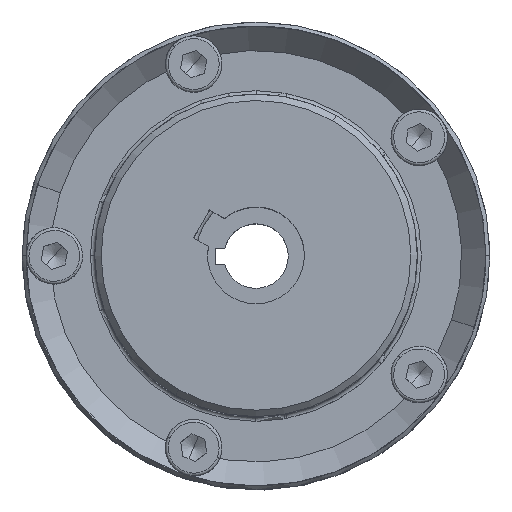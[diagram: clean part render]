
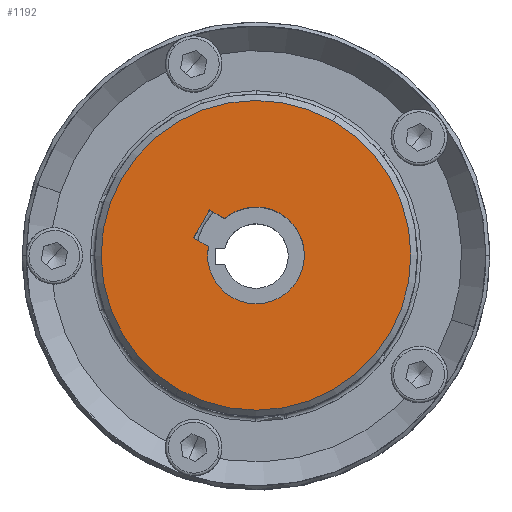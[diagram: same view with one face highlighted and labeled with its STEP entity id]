
A CAD part, top view. The second image highlights one B-rep face of the part: STEP entity #1192.
In plain terms, the highlighted planar face has unit normal (0, 0, 1).
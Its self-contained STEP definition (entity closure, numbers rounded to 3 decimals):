
#1192=ADVANCED_FACE('',(#2684,#2685),#2686,.T.);
#2684=FACE_BOUND('',#4490,.T.);
#2685=FACE_OUTER_BOUND('',#4491,.T.);
#2686=PLANE('',#4492);
#4490=EDGE_LOOP('',(#7991,#7992,#7993,#7994,#7995,#7996));
#4491=EDGE_LOOP('',(#7997,#7998));
#4492=AXIS2_PLACEMENT_3D('',#7999,#8000,#8001);
#7991=ORIENTED_EDGE('',*,*,#12037,.T.);
#7992=ORIENTED_EDGE('',*,*,#11973,.T.);
#7993=ORIENTED_EDGE('',*,*,#12039,.T.);
#7994=ORIENTED_EDGE('',*,*,#11986,.T.);
#7995=ORIENTED_EDGE('',*,*,#12032,.T.);
#7996=ORIENTED_EDGE('',*,*,#12035,.T.);
#7997=ORIENTED_EDGE('',*,*,#11864,.F.);
#7998=ORIENTED_EDGE('',*,*,#12203,.F.);
#7999=CARTESIAN_POINT('',(26.528,7.164,0.0));
#8000=DIRECTION('',(0.0,0.0,1.0));
#8001=DIRECTION('',(1.0,-0.0,0.0));
#11864=EDGE_CURVE('',#14654,#14656,#14657,.T.);
#11973=EDGE_CURVE('',#14840,#14837,#14841,.T.);
#11986=EDGE_CURVE('',#14853,#14863,#14865,.T.);
#12032=EDGE_CURVE('',#14863,#14930,#14932,.T.);
#12035=EDGE_CURVE('',#14930,#14934,#14936,.T.);
#12037=EDGE_CURVE('',#14934,#14840,#14938,.T.);
#12039=EDGE_CURVE('',#14837,#14853,#14940,.T.);
#12203=EDGE_CURVE('',#14656,#14654,#15174,.T.);
#14654=VERTEX_POINT('',#18943);
#14656=VERTEX_POINT('',#18946);
#14657=CIRCLE('',#18947,19.2);
#14837=VERTEX_POINT('',#19331);
#14840=VERTEX_POINT('',#19335);
#14841=CIRCLE('',#19336,6.0);
#14853=VERTEX_POINT('',#19360);
#14863=VERTEX_POINT('',#19382);
#14865=CIRCLE('',#19385,6.0);
#14930=VERTEX_POINT('',#19470);
#14932=LINE('',#19473,#19474);
#14934=VERTEX_POINT('',#19476);
#14936=LINE('',#19479,#19480);
#14938=LINE('',#19482,#19483);
#14940=CIRCLE('',#19485,6.0);
#15174=CIRCLE('',#19938,19.2);
#18943=CARTESIAN_POINT('',(9.568,16.646,0.0));
#18946=CARTESIAN_POINT('',(-9.568,-16.646,0.));
#18947=AXIS2_PLACEMENT_3D('',#23108,#23109,#23110);
#19331=CARTESIAN_POINT('',(3.0,5.196,0.));
#19335=CARTESIAN_POINT('',(-3.899,4.56,0.0));
#19336=AXIS2_PLACEMENT_3D('',#23257,#23258,#23259);
#19360=CARTESIAN_POINT('',(-3.0,-5.196,0.));
#19382=CARTESIAN_POINT('',(-5.899,1.096,0.0));
#19385=AXIS2_PLACEMENT_3D('',#23271,#23272,#23273);
#19470=CARTESIAN_POINT('',(-7.755,2.168,0.));
#19473=CARTESIAN_POINT('',(5.708,-5.605,0.));
#19474=VECTOR('',#23331,1.0);
#19476=CARTESIAN_POINT('',(-5.755,5.632,0.));
#19479=CARTESIAN_POINT('',(-1.888,12.33,0.));
#19480=VECTOR('',#23333,1.0);
#19482=CARTESIAN_POINT('',(7.708,-2.141,0.));
#19483=VECTOR('',#23334,1.0);
#19485=AXIS2_PLACEMENT_3D('',#23335,#23336,#23337);
#19938=AXIS2_PLACEMENT_3D('',#23571,#23572,#23573);
#23108=CARTESIAN_POINT('',(0.,0.,0.0));
#23109=DIRECTION('',(0.,0.,-1.0));
#23110=DIRECTION('',(0.498,0.867,0.));
#23257=CARTESIAN_POINT('',(0.,0.0,0.));
#23258=DIRECTION('',(-0.0,0.0,-1.0));
#23259=DIRECTION('',(-0.5,-0.866,0.0));
#23271=CARTESIAN_POINT('',(0.,0.0,0.));
#23272=DIRECTION('',(-0.0,0.0,-1.0));
#23273=DIRECTION('',(-0.5,-0.866,0.0));
#23331=DIRECTION('',(-0.866,0.5,0.0));
#23333=DIRECTION('',(0.5,0.866,-0.0));
#23334=DIRECTION('',(0.866,-0.5,0.0));
#23335=CARTESIAN_POINT('',(0.,0.0,0.));
#23336=DIRECTION('',(-0.0,0.0,-1.0));
#23337=DIRECTION('',(-0.5,-0.866,0.0));
#23571=CARTESIAN_POINT('',(0.,0.,0.0));
#23572=DIRECTION('',(0.,0.,-1.0));
#23573=DIRECTION('',(0.498,0.867,0.));
